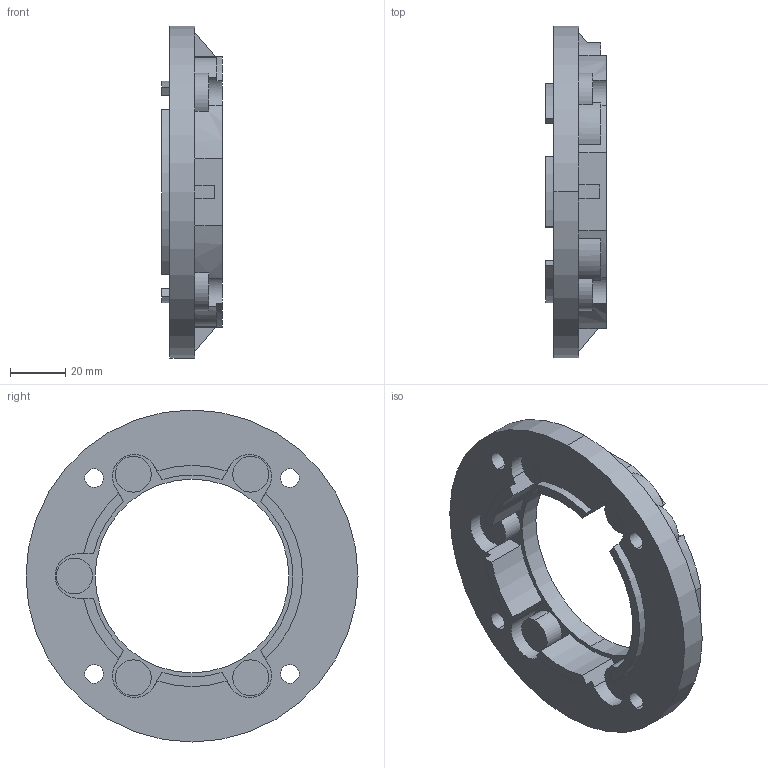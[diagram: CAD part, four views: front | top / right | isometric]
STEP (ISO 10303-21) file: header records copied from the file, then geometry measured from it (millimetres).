
FILE_DESCRIPTION(/* description */ (''),/* implementation_level */ '2;1');
FILE_NAME(/* name */ '4_FLANGIA (CAMPANA) LATERALE FD H032',/* time_stamp */ '2025-10-31T14:37:06+01:00',/* author */ (''),/* organization */ (''),/* preprocessor_version */ 'ST-DEVELOPER v19.2',/* originating_system */ 'Rhino 8.23',/* authorisation */ '');
FILE_SCHEMA (('CONFIG_CONTROL_DESIGN'));
Length unit declared in the file: millimetre
Products named in the file (2): Document; FU032FD-9
Bounding box: 22 x 120 x 120 mm (x, y, z)
Volume: 100789.5 mm3; surface area: 30988.8 mm2
Topology: 1 solids, 1 shells, 107 faces, 294 edges, 196 vertices
Faces by surface type: cylinder 58, plane 49
Entity records: 4651 total; most frequent: CARTESIAN_POINT 1031, ORIENTED_EDGE 588, DIRECTION 381, EDGE_CURVE 294, AXIS2_PLACEMENT_3D 244, VERTEX_POINT 196, B_SPLINE_CURVE_WITH_KNOTS 160, TRIMMED_CURVE 133
